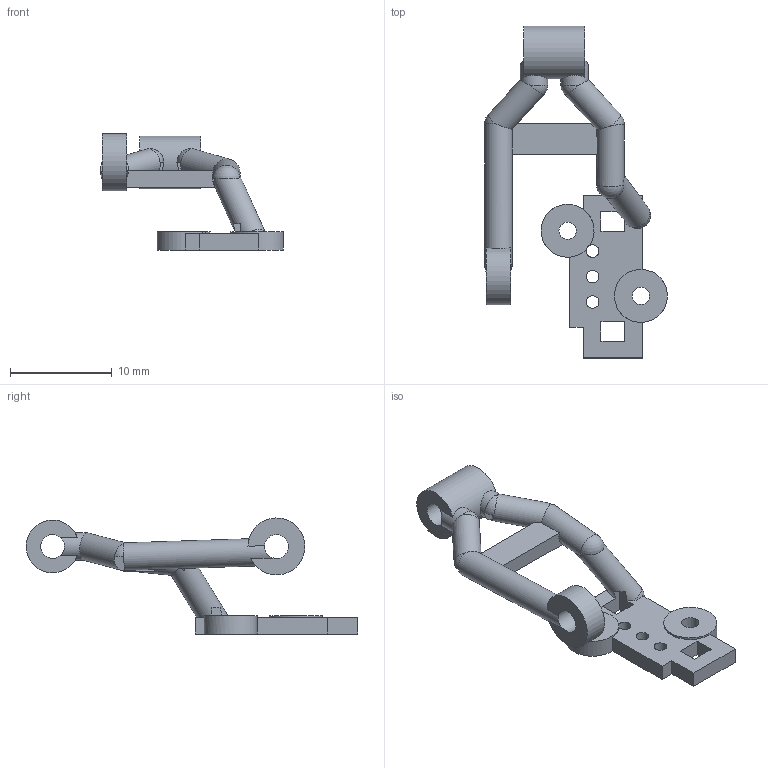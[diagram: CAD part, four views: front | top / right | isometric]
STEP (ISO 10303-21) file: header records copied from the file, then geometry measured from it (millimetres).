
FILE_DESCRIPTION(('Open CASCADE Model'),'2;1');
FILE_NAME('Open CASCADE Shape Model','2026-10-17T01:37:17',('Author'),( 'Open CASCADE'),'Open CASCADE STEP processor 7.9','Open CASCADE 7.9' ,'Unknown');
FILE_SCHEMA(('AUTOMOTIVE_DESIGN { 1 0 10303 214 1 1 1 1 }'));
Length unit declared in the file: millimetre
Products named in the file (1): Open CASCADE STEP translator 7.9 4
Bounding box: 17.95 x 32.6 x 11.4 mm (x, y, z)
Volume: 589.9 mm3; surface area: 1036.8 mm2
Topology: 1 solids, 1 shells, 75 faces, 225 edges, 143 vertices
Faces by surface type: plane 50, cylinder 18, sphere 7
Full cylindrical faces by diameter (mm): 1.25 x3, 1.7 x2, 2.35 x2, 2.7 x7, 5.2 x2
Entity records: 7810 total; most frequent: CARTESIAN_POINT 3617, DIRECTION 746, ORIENTED_EDGE 446, PCURVE 446, DEFINITIONAL_REPRESENTATION 446, LINE 379, VECTOR 379, EDGE_CURVE 223
